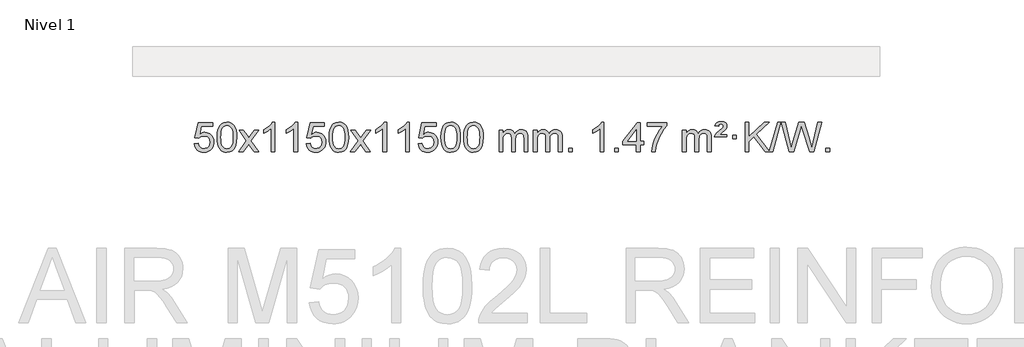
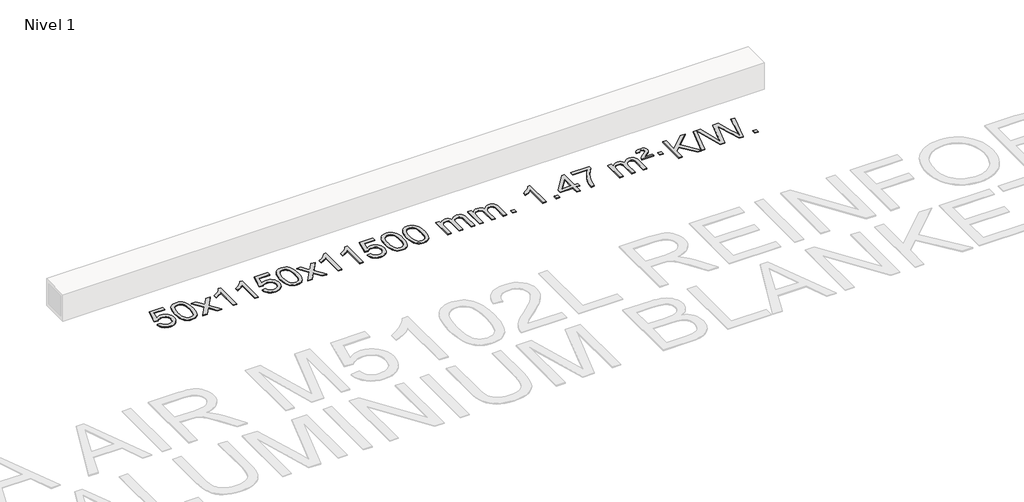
# One storey, part 3 of 5: 1 proxy.
"""IFC4 building model written with IfcOpenShell, lengths in millimetres."""

from ifc_helpers import new_model, si_unit, origin, origin_with_axes, place, context, project, spatial, polyline, outline, extrude, element, save

model = new_model("IFC4")

# Units and contexts
model_context = context("Model", 3, world=origin())
ifc_project = project(units=[si_unit("LENGTHUNIT", "METRE", prefix="MILLI")], contexts=[model_context])

# Site, building, storey
site = spatial("IfcSite", under=ifc_project)
building = spatial("IfcBuilding", under=site)
storey = spatial("IfcBuildingStorey", under=building, Name="Nivel 1", Elevation=0.0)

# Proxy
placement = place(None, origin())
element("IfcBuildingElementProxy", 1, Name="Texto de modelo 1", ObjectType="Texto de modelo 1", at=placement, inside=storey, context=model_context, shape_type="SweptSolid", body=[
    extrude(outline(polyline([(-19164.9669637, -4209.5899742), (-19114.7388086, -4203.3114548), (-19105.5172333, -4233.4655156), (-19089.4285273, -4255.0601888), (-19066.5462672, -4268.0464232), (-19036.9440294, -4272.375168), (-19017.8141656, -4270.8699175), (-19000.9406448, -4266.354166), (-18986.3234668, -4258.8279135), (-18973.9626318, -4248.2911601), (-18964.1340511, -4235.2650717), (-18957.1136364, -4220.2708148), (-18951.4973046, -4184.3777948), (-18956.7580171, -4150.5817021), (-18963.3339078, -4136.6635), (-18972.5401547, -4124.7318606), (-18984.4074148, -4115.1607974), (-18998.9663447, -4108.3243236), (-19036.1592144, -4102.8551446), (-19060.5252652, -4105.0379111), (-19080.2560029, -4111.5862106), (-19096.013615, -4121.6171264), (-19108.4602892, -4134.2477415), (-19158.6884443, -4127.9692222), (-19114.7388086, -3920.7780825), (-18920.1047077, -3920.7780825), (-18920.1047077, -3971.0062376), (-19074.1246363, -3971.0062376), (-19095.6089449, -4081.6651417), (-19077.8831641, -4068.9609501), (-19059.7281876, -4059.8865276), (-19041.1440155, -4054.4418741), (-19022.1306477, -4052.6269896), (-18997.6695607, -4054.8772011), (-18975.2011678, -4061.6278357), (-18954.7254691, -4072.8788934), (-18936.2424645, -4088.6303741), (-18920.9416392, -4107.9196534), (-18910.0124783, -4129.7841067), (-18903.4549817, -4154.2237339), (-18901.2691495, -4181.2385351), (-18903.2373182, -4207.2600549), (-18909.1418242, -4231.4666901), (-18918.9826676, -4253.8584409), (-18932.7598483, -4274.4353072), (-18953.6310202, -4295.5088141), (-18977.9848083, -4310.5613191), (-19005.8212126, -4319.5928221), (-19037.1402331, -4322.6033231), (-19063.0605853, -4320.6688769), (-19086.4732086, -4314.8655384), (-19107.378103, -4305.1933077), (-19125.7752685, -4291.6521846), (-19141.0822251, -4274.9166195), (-19152.7164932, -4255.6610627), (-19160.6780728, -4233.8855143), (-19164.9669637, -4209.5899742)])), origin_with_axes(), (0.0, 0.0, 1.0), 10.0),
    extrude(outline(polyline([(-18857.3195138, -4118.649545), (-18853.6284312, -4054.3315095), (-18842.5551831, -4003.0364966), (-18824.2101343, -3963.9796914), (-18812.3520713, -3948.7463112), (-18798.7036493, -3936.3762791), (-18783.218883, -3926.8052158), (-18765.8517871, -3919.9687421), (-18725.4706068, -3914.4995631), (-18694.5194682, -3917.7369247), (-18666.8056913, -3927.4490093), (-18643.6291256, -3943.2556724), (-18626.2896209, -3964.7767691), (-18613.1930218, -3991.8283585), (-18602.7451732, -4024.2264995), (-18595.9025681, -4065.3679693), (-18593.6216997, -4118.649545), (-18597.2759942, -4182.5996984), (-18608.2388776, -4233.772084), (-18626.4735619, -4272.8656773), (-18638.3040337, -4288.1450429), (-18651.9432587, -4300.5794543), (-18667.4464191, -4310.2148969), (-18684.8686972, -4317.0973559), (-18725.4706068, -4322.6033231), (-18753.1353328, -4320.2120901), (-18777.6607992, -4313.0383912), (-18799.0470058, -4301.0822264), (-18817.2939528, -4284.3435956), (-18834.8051357, -4254.0853015), (-18847.3131236, -4216.3835283), (-18854.8179163, -4171.2382762), (-18857.3195138, -4118.649545)]), holes=[polyline([(-18807.0913588, -4118.5514431), (-18805.6198308, -4162.2159702), (-18801.2052468, -4197.5602329), (-18793.8476069, -4224.5842311), (-18783.5469111, -4243.2879649), (-18771.0879742, -4256.0136163), (-18757.2556112, -4265.1033672), (-18742.049822, -4270.5572178), (-18725.4706068, -4272.375168), (-18708.8913915, -4270.5510864), (-18693.6856024, -4265.0788418), (-18679.8532394, -4255.958434), (-18667.3943025, -4243.1898631), (-18657.0936066, -4224.4554724), (-18649.7359667, -4197.4376056), (-18645.3213828, -4162.1362625), (-18643.8498548, -4118.5514431), (-18645.2723318, -4076.0426785), (-18649.539763, -4041.3207496), (-18656.6521482, -4014.3856562), (-18666.6094875, -3995.2373983), (-18678.859958, -3981.8894132), (-18692.8517365, -3972.3551382), (-18708.5848232, -3966.6345732), (-18726.059218, -3964.7277182), (-18742.5525941, -3966.4077126), (-18757.5008658, -3971.4476959), (-18770.9040332, -3979.8476682), (-18782.7620962, -3991.6076293), (-18793.4061486, -4012.4542757), (-18801.0090431, -4040.5604601), (-18805.5707799, -4075.9261826), (-18807.0913588, -4118.5514431)])]), origin_with_axes(), (0.0, 0.0, 1.0), 10.0),
    extrude(outline(polyline([(-18568.5076222, -4316.3248037), (-18461.1841814, -4167.9947832), (-18562.2291028, -4021.2343926), (-18501.7983537, -4021.2343926), (-18453.0417266, -4091.8677357), (-18430.2820938, -4125.2223699), (-18410.5636189, -4097.9500514), (-18355.0379631, -4021.2343926), (-18294.607214, -4021.2343926), (-18400.7534324, -4167.9947832), (-18298.5312886, -4316.3248037), (-18358.9620377, -4316.3248037), (-18420.4719073, -4227.1502081), (-18431.7536218, -4210.8652984), (-18508.0768731, -4316.3248037), (-18568.5076222, -4316.3248037)])), origin_with_axes(), (0.0, 0.0, 1.0), 10.0),
    extrude(outline(polyline([(-18078.7831102, -4316.3248037), (-18129.0112653, -4316.3248037), (-18129.0112653, -4003.1836494), (-18149.980539, -4020.1430094), (-18176.59067, -4037.0778439), (-18229.4675754, -4062.4371761), (-18229.4675754, -4014.9558732), (-18190.0183628, -3993.4960902), (-18155.8421254, -3967.9650797), (-18128.9009007, -3940.8153885), (-18111.1567258, -3914.4995631), (-18078.7831102, -3914.4995631), (-18078.7831102, -4316.3248037)])), origin_with_axes(), (0.0, 0.0, 1.0), 10.0),
    extrude(outline(polyline([(-17771.1356604, -4316.3248037), (-17821.3638154, -4316.3248037), (-17821.3638154, -4003.1836494), (-17842.3330892, -4020.1430094), (-17868.9432201, -4037.0778439), (-17921.8201256, -4062.4371761), (-17921.8201256, -4014.9558732), (-17882.370913, -3993.4960902), (-17848.1946756, -3967.9650797), (-17821.2534508, -3940.8153885), (-17803.5092759, -3914.4995631), (-17771.1356604, -3914.4995631), (-17771.1356604, -4316.3248037)])), origin_with_axes(), (0.0, 0.0, 1.0), 10.0),
    extrude(outline(polyline([(-17651.8437921, -4209.5899742), (-17601.615637, -4203.3114548), (-17592.3940616, -4233.4655156), (-17576.3053557, -4255.0601888), (-17553.4230956, -4268.0464232), (-17523.8208577, -4272.375168), (-17504.690994, -4270.8699175), (-17487.8174731, -4266.354166), (-17473.2002952, -4258.8279135), (-17460.8394602, -4248.2911601), (-17451.0108795, -4235.2650717), (-17443.9904648, -4220.2708148), (-17438.374133, -4184.3777948), (-17443.6348455, -4150.5817021), (-17450.2107362, -4136.6635), (-17459.4169831, -4124.7318606), (-17471.2842431, -4115.1607974), (-17485.8431731, -4108.3243236), (-17523.0360428, -4102.8551446), (-17547.4020936, -4105.0379111), (-17567.1328313, -4111.5862106), (-17582.8904434, -4121.6171264), (-17595.3371176, -4134.2477415), (-17645.5652727, -4127.9692222), (-17601.615637, -3920.7780825), (-17406.9815361, -3920.7780825), (-17406.9815361, -3971.0062376), (-17561.0014647, -3971.0062376), (-17582.4857732, -4081.6651417), (-17564.7599924, -4068.9609501), (-17546.605016, -4059.8865276), (-17528.0208438, -4054.4418741), (-17509.0074761, -4052.6269896), (-17484.5463891, -4054.8772011), (-17462.0779962, -4061.6278357), (-17441.6022975, -4072.8788934), (-17423.1192929, -4088.6303741), (-17407.8184676, -4107.9196534), (-17396.8893067, -4129.7841067), (-17390.3318101, -4154.2237339), (-17388.1459779, -4181.2385351), (-17390.1141466, -4207.2600549), (-17396.0186526, -4231.4666901), (-17405.859496, -4253.8584409), (-17419.6366767, -4274.4353072), (-17440.5078486, -4295.5088141), (-17464.8616366, -4310.5613191), (-17492.6980409, -4319.5928221), (-17524.0170615, -4322.6033231), (-17549.9374137, -4320.6688769), (-17573.350037, -4314.8655384), (-17594.2549314, -4305.1933077), (-17612.6520968, -4291.6521846), (-17627.9590535, -4274.9166195), (-17639.5933216, -4255.6610627), (-17647.5549011, -4233.8855143), (-17651.8437921, -4209.5899742)])), origin_with_axes(), (0.0, 0.0, 1.0), 10.0),
    extrude(outline(polyline([(-17344.1963422, -4118.649545), (-17340.5052595, -4054.3315095), (-17329.4320115, -4003.0364966), (-17311.0869627, -3963.9796914), (-17299.2288997, -3948.7463112), (-17285.5804777, -3936.3762791), (-17270.0957113, -3926.8052158), (-17252.7286155, -3919.9687421), (-17212.3474351, -3914.4995631), (-17181.3962966, -3917.7369247), (-17153.6825196, -3927.4490093), (-17130.505954, -3943.2556724), (-17113.1664492, -3964.7767691), (-17100.0698502, -3991.8283585), (-17089.6220016, -4024.2264995), (-17082.7793964, -4065.3679693), (-17080.4985281, -4118.649545), (-17084.1528226, -4182.5996984), (-17095.115706, -4233.772084), (-17113.3503902, -4272.8656773), (-17125.1808621, -4288.1450429), (-17138.820087, -4300.5794543), (-17154.3232475, -4310.2148969), (-17171.7455256, -4317.0973559), (-17212.3474351, -4322.6033231), (-17240.0121612, -4320.2120901), (-17264.5376275, -4313.0383912), (-17285.9238342, -4301.0822264), (-17304.1707811, -4284.3435956), (-17321.6819641, -4254.0853015), (-17334.1899519, -4216.3835283), (-17341.6947446, -4171.2382762), (-17344.1963422, -4118.649545)]), holes=[polyline([(-17293.9681871, -4118.5514431), (-17292.4966592, -4162.2159702), (-17288.0820752, -4197.5602329), (-17280.7244353, -4224.5842311), (-17270.4237395, -4243.2879649), (-17257.9648025, -4256.0136163), (-17244.1324395, -4265.1033672), (-17228.9266504, -4270.5572178), (-17212.3474351, -4272.375168), (-17195.7682199, -4270.5510864), (-17180.5624308, -4265.0788418), (-17166.7300677, -4255.958434), (-17154.2711308, -4243.1898631), (-17143.970435, -4224.4554724), (-17136.6127951, -4197.4376056), (-17132.1982111, -4162.1362625), (-17130.7266831, -4118.5514431), (-17132.1491602, -4076.0426785), (-17136.4165913, -4041.3207496), (-17143.5289766, -4014.3856562), (-17153.4863159, -3995.2373983), (-17165.7367864, -3981.8894132), (-17179.7285649, -3972.3551382), (-17195.4616516, -3966.6345732), (-17212.9360463, -3964.7277182), (-17229.4294225, -3966.4077126), (-17244.3776942, -3971.4476959), (-17257.7808616, -3979.8476682), (-17269.6389245, -3991.6076293), (-17280.2829769, -4012.4542757), (-17287.8858715, -4040.5604601), (-17292.4476082, -4075.9261826), (-17293.9681871, -4118.5514431)])]), origin_with_axes(), (0.0, 0.0, 1.0), 10.0),
    extrude(outline(polyline([(-17055.3844505, -4316.3248037), (-16948.0610098, -4167.9947832), (-17049.1059312, -4021.2343926), (-16988.6751821, -4021.2343926), (-16939.918555, -4091.8677357), (-16917.1589222, -4125.2223699), (-16897.4404473, -4097.9500514), (-16841.9147915, -4021.2343926), (-16781.4840424, -4021.2343926), (-16887.6302607, -4167.9947832), (-16785.408117, -4316.3248037), (-16845.8388661, -4316.3248037), (-16907.3487357, -4227.1502081), (-16918.6304502, -4210.8652984), (-16994.9537015, -4316.3248037), (-17055.3844505, -4316.3248037)])), origin_with_axes(), (0.0, 0.0, 1.0), 10.0),
    extrude(outline(polyline([(-16565.6599386, -4316.3248037), (-16615.8880936, -4316.3248037), (-16615.8880936, -4003.1836494), (-16636.8573674, -4020.1430094), (-16663.4674983, -4037.0778439), (-16716.3444038, -4062.4371761), (-16716.3444038, -4014.9558732), (-16676.8951912, -3993.4960902), (-16642.7189538, -3967.9650797), (-16615.777729, -3940.8153885), (-16598.0335541, -3914.4995631), (-16565.6599386, -3914.4995631), (-16565.6599386, -4316.3248037)])), origin_with_axes(), (0.0, 0.0, 1.0), 10.0),
    extrude(outline(polyline([(-16258.0124887, -4316.3248037), (-16308.2406438, -4316.3248037), (-16308.2406438, -4003.1836494), (-16329.2099175, -4020.1430094), (-16355.8200485, -4037.0778439), (-16408.6969539, -4062.4371761), (-16408.6969539, -4014.9558732), (-16369.2477413, -3993.4960902), (-16335.071504, -3967.9650797), (-16308.1302792, -3940.8153885), (-16290.3861043, -3914.4995631), (-16258.0124887, -3914.4995631), (-16258.0124887, -4316.3248037)])), origin_with_axes(), (0.0, 0.0, 1.0), 10.0),
    extrude(outline(polyline([(-16138.7206204, -4209.5899742), (-16088.4924653, -4203.3114548), (-16079.27089, -4233.4655156), (-16063.1821841, -4255.0601888), (-16040.299924, -4268.0464232), (-16010.6976861, -4272.375168), (-15991.5678224, -4270.8699175), (-15974.6943015, -4266.354166), (-15960.0771236, -4258.8279135), (-15947.7162885, -4248.2911601), (-15937.8877079, -4235.2650717), (-15930.8672931, -4220.2708148), (-15925.2509614, -4184.3777948), (-15930.5116739, -4150.5817021), (-15937.0875645, -4136.6635), (-15946.2938115, -4124.7318606), (-15958.1610715, -4115.1607974), (-15972.7200015, -4108.3243236), (-16009.9128712, -4102.8551446), (-16034.278922, -4105.0379111), (-16054.0096597, -4111.5862106), (-16069.7672718, -4121.6171264), (-16082.213946, -4134.2477415), (-16132.442101, -4127.9692222), (-16088.4924653, -3920.7780825), (-15893.8583644, -3920.7780825), (-15893.8583644, -3971.0062376), (-16047.8782931, -3971.0062376), (-16069.3626016, -4081.6651417), (-16051.6368208, -4068.9609501), (-16033.4818443, -4059.8865276), (-16014.8976722, -4054.4418741), (-15995.8843044, -4052.6269896), (-15971.4232174, -4054.8772011), (-15948.9548246, -4061.6278357), (-15928.4791259, -4072.8788934), (-15909.9961213, -4088.6303741), (-15894.695296, -4107.9196534), (-15883.766135, -4129.7841067), (-15877.2086385, -4154.2237339), (-15875.0228063, -4181.2385351), (-15876.990975, -4207.2600549), (-15882.895481, -4231.4666901), (-15892.7363243, -4253.8584409), (-15906.5135051, -4274.4353072), (-15927.3846769, -4295.5088141), (-15951.738465, -4310.5613191), (-15979.5748693, -4319.5928221), (-16010.8938898, -4322.6033231), (-16036.8142421, -4320.6688769), (-16060.2268654, -4314.8655384), (-16081.1317598, -4305.1933077), (-16099.5289252, -4291.6521846), (-16114.8358819, -4274.9166195), (-16126.47015, -4255.6610627), (-16134.4317295, -4233.8855143), (-16138.7206204, -4209.5899742)])), origin_with_axes(), (0.0, 0.0, 1.0), 10.0),
    extrude(outline(polyline([(-15831.0731706, -4118.649545), (-15827.3820879, -4054.3315095), (-15816.3088398, -4003.0364966), (-15797.963791, -3963.9796914), (-15786.105728, -3948.7463112), (-15772.457306, -3936.3762791), (-15756.9725397, -3926.8052158), (-15739.6054439, -3919.9687421), (-15699.2242635, -3914.4995631), (-15668.273125, -3917.7369247), (-15640.559348, -3927.4490093), (-15617.3827823, -3943.2556724), (-15600.0432776, -3964.7767691), (-15586.9466786, -3991.8283585), (-15576.4988299, -4024.2264995), (-15569.6562248, -4065.3679693), (-15567.3753564, -4118.649545), (-15571.0296509, -4182.5996984), (-15581.9925344, -4233.772084), (-15600.2272186, -4272.8656773), (-15612.0576904, -4288.1450429), (-15625.6969154, -4300.5794543), (-15641.2000758, -4310.2148969), (-15658.622354, -4317.0973559), (-15699.2242635, -4322.6033231), (-15726.8889896, -4320.2120901), (-15751.4144559, -4313.0383912), (-15772.8006626, -4301.0822264), (-15791.0476095, -4284.3435956), (-15808.5587925, -4254.0853015), (-15821.0667803, -4216.3835283), (-15828.571573, -4171.2382762), (-15831.0731706, -4118.649545)]), holes=[polyline([(-15780.8450155, -4118.5514431), (-15779.3734875, -4162.2159702), (-15774.9589036, -4197.5602329), (-15767.6012637, -4224.5842311), (-15757.3005678, -4243.2879649), (-15744.8416309, -4256.0136163), (-15731.0092679, -4265.1033672), (-15715.8034788, -4270.5572178), (-15699.2242635, -4272.375168), (-15682.6450483, -4270.5510864), (-15667.4392591, -4265.0788418), (-15653.6068961, -4255.958434), (-15641.1479592, -4243.1898631), (-15630.8472633, -4224.4554724), (-15623.4896234, -4197.4376056), (-15619.0750395, -4162.1362625), (-15617.6035115, -4118.5514431), (-15619.0259886, -4076.0426785), (-15623.2934197, -4041.3207496), (-15630.405805, -4014.3856562), (-15640.3631443, -3995.2373983), (-15652.6136147, -3981.8894132), (-15666.6053933, -3972.3551382), (-15682.3384799, -3966.6345732), (-15699.8128747, -3964.7277182), (-15716.3062508, -3966.4077126), (-15731.2545226, -3971.4476959), (-15744.6576899, -3979.8476682), (-15756.5157529, -3991.6076293), (-15767.1598053, -4012.4542757), (-15774.7626999, -4040.5604601), (-15779.3244366, -4075.9261826), (-15780.8450155, -4118.5514431)])]), origin_with_axes(), (0.0, 0.0, 1.0), 10.0),
    extrude(outline(polyline([(-15523.4257208, -4118.649545), (-15519.7346381, -4054.3315095), (-15508.66139, -4003.0364966), (-15490.3163412, -3963.9796914), (-15478.4582782, -3948.7463112), (-15464.8098562, -3936.3762791), (-15449.3250899, -3926.8052158), (-15431.957994, -3919.9687421), (-15391.5768137, -3914.4995631), (-15360.6256752, -3917.7369247), (-15332.9118982, -3927.4490093), (-15309.7353325, -3943.2556724), (-15292.3958278, -3964.7767691), (-15279.2992288, -3991.8283585), (-15268.8513801, -4024.2264995), (-15262.008775, -4065.3679693), (-15259.7279066, -4118.649545), (-15263.3822011, -4182.5996984), (-15274.3450846, -4233.772084), (-15292.5797688, -4272.8656773), (-15304.4102406, -4288.1450429), (-15318.0494656, -4300.5794543), (-15333.552626, -4310.2148969), (-15350.9749041, -4317.0973559), (-15391.5768137, -4322.6033231), (-15419.2415397, -4320.2120901), (-15443.7670061, -4313.0383912), (-15465.1532127, -4301.0822264), (-15483.4001597, -4284.3435956), (-15500.9113427, -4254.0853015), (-15513.4193305, -4216.3835283), (-15520.9241232, -4171.2382762), (-15523.4257208, -4118.649545)]), holes=[polyline([(-15473.1975657, -4118.5514431), (-15471.7260377, -4162.2159702), (-15467.3114538, -4197.5602329), (-15459.9538139, -4224.5842311), (-15449.653118, -4243.2879649), (-15437.1941811, -4256.0136163), (-15423.3618181, -4265.1033672), (-15408.1560289, -4270.5572178), (-15391.5768137, -4272.375168), (-15374.9975984, -4270.5510864), (-15359.7918093, -4265.0788418), (-15345.9594463, -4255.958434), (-15333.5005094, -4243.1898631), (-15323.1998135, -4224.4554724), (-15315.8421736, -4197.4376056), (-15311.4275897, -4162.1362625), (-15309.9560617, -4118.5514431), (-15311.3785387, -4076.0426785), (-15315.6459699, -4041.3207496), (-15322.7583551, -4014.3856562), (-15332.7156945, -3995.2373983), (-15344.9661649, -3981.8894132), (-15358.9579434, -3972.3551382), (-15374.6910301, -3966.6345732), (-15392.1654249, -3964.7277182), (-15408.658801, -3966.4077126), (-15423.6070727, -3971.4476959), (-15437.0102401, -3979.8476682), (-15448.8683031, -3991.6076293), (-15459.5123555, -4012.4542757), (-15467.11525, -4040.5604601), (-15471.6769868, -4075.9261826), (-15473.1975657, -4118.5514431)])]), origin_with_axes(), (0.0, 0.0, 1.0), 10.0),
    extrude(outline(polyline([(-15046.2582475, -4316.3248037), (-15046.2582475, -4021.2343926), (-14996.0300925, -4021.2343926), (-14996.0300925, -4069.794816), (-14980.9224052, -4047.4889044), (-14961.4982359, -4030.0145096), (-14938.419772, -4018.7205323), (-14912.3492013, -4014.9558732), (-14884.4146951, -4018.7941087), (-14862.0229444, -4030.3088152), (-14845.2965763, -4048.7397031), (-14834.3582183, -4073.3264831), (-14816.0499577, -4047.7893413), (-14795.1665231, -4029.5485257), (-14771.7079145, -4018.6040364), (-14745.674132, -4014.9558732), (-14725.5663153, -4016.4733865), (-14707.9171766, -4021.0259262), (-14692.7267159, -4028.6134923), (-14679.9949331, -4039.2360849), (-14669.9302949, -4053.0163313), (-14662.7412676, -4070.0768589), (-14658.4278512, -4090.4176675), (-14656.9900457, -4114.0387573), (-14656.9900457, -4316.3248037), (-14707.2182008, -4316.3248037), (-14707.2182008, -4135.6211677), (-14708.3831604, -4110.5684038), (-14711.8780394, -4093.6826202), (-14718.4263389, -4082.1188628), (-14728.7515602, -4073.0321776), (-14742.0321003, -4067.1460656), (-14757.4463559, -4065.1840283), (-14784.6573608, -4070.2117489), (-14806.8406451, -4085.2949107), (-14815.4460181, -4096.8647995), (-14821.5927131, -4111.4635833), (-14826.5100691, -4149.7478363), (-14826.5100691, -4316.3248037), (-14876.7382242, -4316.3248037), (-14876.7382242, -4130.0293613), (-14879.6444919, -4101.6288713), (-14888.3632952, -4081.3708361), (-14903.7039744, -4069.2307303), (-14926.4758699, -4065.1840283), (-14945.8264629, -4067.8818296), (-14963.6564769, -4075.9752335), (-14978.3717567, -4089.2680363), (-14988.378147, -4107.5640342), (-14994.1171061, -4132.9478918), (-14996.0300925, -4167.5042739), (-14996.0300925, -4316.3248037), (-15046.2582475, -4316.3248037)])), origin_with_axes(), (0.0, 0.0, 1.0), 10.0),
    extrude(outline(polyline([(-14581.6478131, -4316.3248037), (-14581.6478131, -4021.2343926), (-14531.419658, -4021.2343926), (-14531.419658, -4069.794816), (-14516.3119708, -4047.4889044), (-14496.8878014, -4030.0145096), (-14473.8093376, -4018.7205323), (-14447.7387669, -4014.9558732), (-14419.8042607, -4018.7941087), (-14397.4125099, -4030.3088152), (-14380.6861419, -4048.7397031), (-14369.7477839, -4073.3264831), (-14351.4395233, -4047.7893413), (-14330.5560887, -4029.5485257), (-14307.0974801, -4018.6040364), (-14281.0636976, -4014.9558732), (-14260.9558809, -4016.4733865), (-14243.3067421, -4021.0259262), (-14228.1162814, -4028.6134923), (-14215.3844987, -4039.2360849), (-14205.3198605, -4053.0163313), (-14198.1308331, -4070.0768589), (-14193.8174167, -4090.4176675), (-14192.3796113, -4114.0387573), (-14192.3796113, -4316.3248037), (-14242.6077663, -4316.3248037), (-14242.6077663, -4135.6211677), (-14243.772726, -4110.5684038), (-14247.267605, -4093.6826202), (-14253.8159045, -4082.1188628), (-14264.1411258, -4073.0321776), (-14277.4216658, -4067.1460656), (-14292.8359214, -4065.1840283), (-14320.0469263, -4070.2117489), (-14342.2302106, -4085.2949107), (-14350.8355836, -4096.8647995), (-14356.9822786, -4111.4635833), (-14361.8996347, -4149.7478363), (-14361.8996347, -4316.3248037), (-14412.1277897, -4316.3248037), (-14412.1277897, -4130.0293613), (-14415.0340575, -4101.6288713), (-14423.7528608, -4081.3708361), (-14439.09354, -4069.2307303), (-14461.8654355, -4065.1840283), (-14481.2160284, -4067.8818296), (-14499.0460425, -4075.9752335), (-14513.7613223, -4089.2680363), (-14523.7677125, -4107.5640342), (-14529.5066717, -4132.9478918), (-14531.419658, -4167.5042739), (-14531.419658, -4316.3248037), (-14581.6478131, -4316.3248037)])), origin_with_axes(), (0.0, 0.0, 1.0), 10.0),
    extrude(outline(polyline([(-14104.4803399, -4316.3248037), (-14104.4803399, -4266.0966486), (-14054.2521848, -4266.0966486), (-14054.2521848, -4316.3248037), (-14104.4803399, -4316.3248037)])), origin_with_axes(), (0.0, 0.0, 1.0), 10.0),
    extrude(outline(polyline([(-13627.3128667, -4316.3248037), (-13677.5410218, -4316.3248037), (-13677.5410218, -4003.1836494), (-13698.5102955, -4020.1430094), (-13725.1204265, -4037.0778439), (-13777.9973319, -4062.4371761), (-13777.9973319, -4014.9558732), (-13738.5481193, -3993.4960902), (-13704.3718819, -3967.9650797), (-13677.4306572, -3940.8153885), (-13659.6864823, -3914.4995631), (-13627.3128667, -3914.4995631), (-13627.3128667, -4316.3248037)])), origin_with_axes(), (0.0, 0.0, 1.0), 10.0),
    extrude(outline(polyline([(-13482.9069208, -4316.3248037), (-13482.9069208, -4266.0966486), (-13432.6787658, -4266.0966486), (-13432.6787658, -4316.3248037), (-13482.9069208, -4316.3248037)])), origin_with_axes(), (0.0, 0.0, 1.0), 10.0),
    extrude(outline(polyline([(-13187.8165098, -4316.3248037), (-13187.8165098, -4222.1470129), (-13369.8935719, -4222.1470129), (-13369.8935719, -4171.9188579), (-13175.259471, -3920.7780825), (-13137.5883547, -3920.7780825), (-13137.5883547, -4171.9188579), (-13087.3601996, -4171.9188579), (-13087.3601996, -4222.1470129), (-13137.5883547, -4222.1470129), (-13137.5883547, -4316.3248037), (-13187.8165098, -4316.3248037)]), holes=[polyline([(-13187.8165098, -4171.9188579), (-13187.8165098, -4016.7217068), (-13308.0893967, -4171.9188579), (-13187.8165098, -4171.9188579)])]), origin_with_axes(), (0.0, 0.0, 1.0), 10.0),
    extrude(outline(polyline([(-13043.4105639, -3971.0062376), (-13043.4105639, -3920.7780825), (-12779.7127498, -3920.7780825), (-12779.7127498, -3961.3922547), (-12817.298027, -4008.9593967), (-12854.5154221, -4069.4514595), (-12887.3427588, -4137.350213), (-12911.7578606, -4207.1374275), (-12923.7262882, -4259.3521454), (-12930.397215, -4316.3248037), (-12980.6253701, -4316.3248037), (-12975.1929793, -4264.5515442), (-12960.6616405, -4203.0171492), (-12937.4237611, -4137.7916714), (-12905.8717487, -4074.9451639), (-12869.0344982, -4018.1319211), (-12829.9409049, -3971.0062376), (-13043.4105639, -3971.0062376)])), origin_with_axes(), (0.0, 0.0, 1.0), 10.0),
    extrude(outline(polyline([(-12566.2430907, -4316.3248037), (-12566.2430907, -4021.2343926), (-12516.0149357, -4021.2343926), (-12516.0149357, -4069.794816), (-12500.9072484, -4047.4889044), (-12481.483079, -4030.0145096), (-12458.4046152, -4018.7205323), (-12432.3340445, -4014.9558732), (-12404.3995383, -4018.7941087), (-12382.0077875, -4030.3088152), (-12365.2814195, -4048.7397031), (-12354.3430615, -4073.3264831), (-12336.0348009, -4047.7893413), (-12315.1513663, -4029.5485257), (-12291.6927577, -4018.6040364), (-12265.6589752, -4014.9558732), (-12245.5511585, -4016.4733865), (-12227.9020198, -4021.0259262), (-12212.711559, -4028.6134923), (-12199.9797763, -4039.2360849), (-12189.9151381, -4053.0163313), (-12182.7261108, -4070.0768589), (-12178.4126944, -4090.4176675), (-12176.9748889, -4114.0387573), (-12176.9748889, -4316.3248037), (-12227.203044, -4316.3248037), (-12227.203044, -4135.6211677), (-12228.3680036, -4110.5684038), (-12231.8628826, -4093.6826202), (-12238.4111821, -4082.1188628), (-12248.7364034, -4073.0321776), (-12262.0169434, -4067.1460656), (-12277.431199, -4065.1840283), (-12304.642204, -4070.2117489), (-12326.8254883, -4085.2949107), (-12335.4308613, -4096.8647995), (-12341.5775563, -4111.4635833), (-12346.4949123, -4149.7478363), (-12346.4949123, -4316.3248037), (-12396.7230673, -4316.3248037), (-12396.7230673, -4130.0293613), (-12399.6293351, -4101.6288713), (-12408.3481384, -4081.3708361), (-12423.6888176, -4069.2307303), (-12446.4607131, -4065.1840283), (-12465.811306, -4067.8818296), (-12483.6413201, -4075.9752335), (-12498.3565999, -4089.2680363), (-12508.3629902, -4107.5640342), (-12514.1019493, -4132.9478918), (-12516.0149357, -4167.5042739), (-12516.0149357, -4316.3248037), (-12566.2430907, -4316.3248037)])), origin_with_axes(), (0.0, 0.0, 1.0), 10.0),
    extrude(outline(polyline([(-12133.0252532, -4115.4121834), (-12129.1992805, -4099.5932576), (-12120.8606219, -4083.7252809), (-12099.3517879, -4058.5866779), (-12067.3951053, -4030.8483754), (-12023.2492658, -3993.4715647), (-12016.1123551, -3981.9445955), (-12013.7333849, -3970.1233208), (-12015.6218458, -3958.0322659), (-12021.2872285, -3948.2466048), (-12030.6559567, -3941.7718817), (-12043.6544538, -3939.6136406), (-12056.0888653, -3941.2323214), (-12064.9425586, -3946.0883637), (-12071.3682308, -3955.5551938), (-12076.5185787, -3971.0062376), (-12126.7467338, -3964.7277182), (-12115.9064777, -3939.5155388), (-12099.2782115, -3921.9553049), (-12075.5130346, -3911.654609), (-12043.2620464, -3908.2210437), (-12007.479391, -3912.3535848), (-11982.7331954, -3924.751208), (-11968.3122212, -3943.0839941), (-11963.5052298, -3965.0220238), (-11967.6009827, -3987.9288093), (-11979.8882413, -4009.5602706), (-12000.4160567, -4029.3768475), (-12036.8854251, -4057.433981), (-12062.490012, -4084.0195865), (-11963.5052298, -4084.0195865), (-11963.5052298, -4115.4121834), (-12133.0252532, -4115.4121834)])), origin_with_axes(), (0.0, 0.0, 1.0), 10.0),
    extrude(outline(polyline([(-11888.1629972, -4140.5262609), (-11888.1629972, -4090.2981059), (-11837.9348421, -4090.2981059), (-11837.9348421, -4140.5262609), (-11888.1629972, -4140.5262609)])), origin_with_axes(), (0.0, 0.0, 1.0), 10.0),
    extrude(outline(polyline([(-11447.2932142, -4316.3248037), (-11600.7245317, -4113.6463498), (-11668.4148188, -4178.1973772), (-11668.4148188, -4316.3248037), (-11718.6429738, -4316.3248037), (-11718.6429738, -3914.4995631), (-11668.4148188, -3914.4995631), (-11668.4148188, -4111.1938032), (-11462.4009015, -3914.4995631), (-11392.1599659, -3914.4995631), (-11565.1135545, -4079.7031044), (-11390.4599447, -4310.2802839), (-11279.1466169, -3914.4995631), (-11233.8235551, -3914.4995631), (-11346.836904, -4316.3248037), (-11385.8814465, -4316.3248037), (-11392.1599659, -4316.3248037), (-11447.2932142, -4316.3248037)])), origin_with_axes(), (0.0, 0.0, 1.0), 10.0),
    extrude(outline(polyline([(-11119.3386782, -4316.3248037), (-11228.9184619, -3914.4995631), (-11177.1206769, -3914.4995631), (-11113.5506682, -4178.5897847), (-11093.9302951, -4260.1124348), (-11072.9364959, -4188.0075638), (-10993.2777812, -3914.4995631), (-10918.6222617, -3914.4995631), (-10860.7421611, -4112.763433), (-10835.9469146, -4186.3398321), (-10817.6754422, -4260.1124348), (-10798.6436803, -4180.9442295), (-10734.4850603, -3914.4995631), (-10682.6872754, -3914.4995631), (-10792.3651609, -4316.3248037), (-10846.0268813, -4316.3248037), (-10942.3629131, -4006.3229091), (-10955.8028686, -3963.0599865), (-10970.9105559, -4015.152077), (-11058.7117254, -4316.3248037), (-11119.3386782, -4316.3248037)])), origin_with_axes(), (0.0, 0.0, 1.0), 10.0),
    extrude(outline(polyline([(-10626.180601, -4316.3248037), (-10626.180601, -4266.0966486), (-10575.9524459, -4266.0966486), (-10575.9524459, -4316.3248037), (-10626.180601, -4316.3248037)])), origin_with_axes(), (0.0, 0.0, 1.0), 10.0),
])

save(model, "model.ifc")
